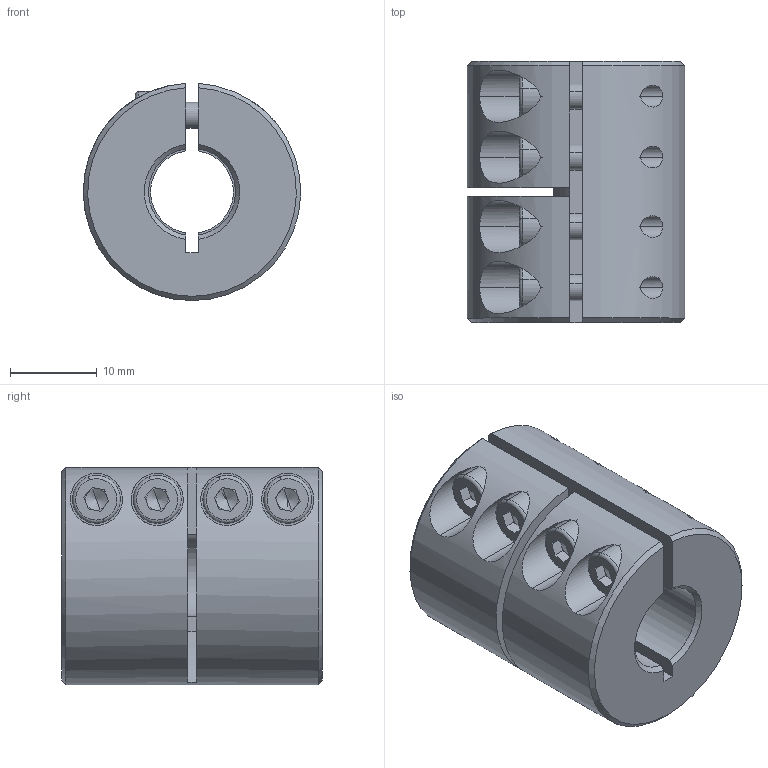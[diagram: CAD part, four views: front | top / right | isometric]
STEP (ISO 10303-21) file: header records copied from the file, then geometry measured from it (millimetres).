
FILE_DESCRIPTION (( 'STEP AP214' ), '1' );
FILE_NAME ('LL-B-D25L30-9.525-10½¨Ä£.STEP', '2022-07-21T03:17:47', ( '' ), ( '' ), 'SwSTEP 2.0', 'SolidWorks 2022', '' );
FILE_SCHEMA (( 'AUTOMOTIVE_DESIGN' ));
Length unit declared in the file: millimetre
Products named in the file (1): LL-B-D25L30-9.525-10膘耀
Bounding box: 24.99 x 30 x 24.98 mm (x, y, z)
Volume: 11429.1 mm3; surface area: 5900.5 mm2
Topology: 1 solids, 1 shells, 164 faces, 418 edges, 264 vertices
Faces by surface type: plane 83, cylinder 58, cone 15, torus 8
Entity records: 5402 total; most frequent: CARTESIAN_POINT 1363, DIRECTION 862, ORIENTED_EDGE 820, EDGE_CURVE 410, AXIS2_PLACEMENT_3D 331, VERTEX_POINT 264, VECTOR 200, LINE 200
